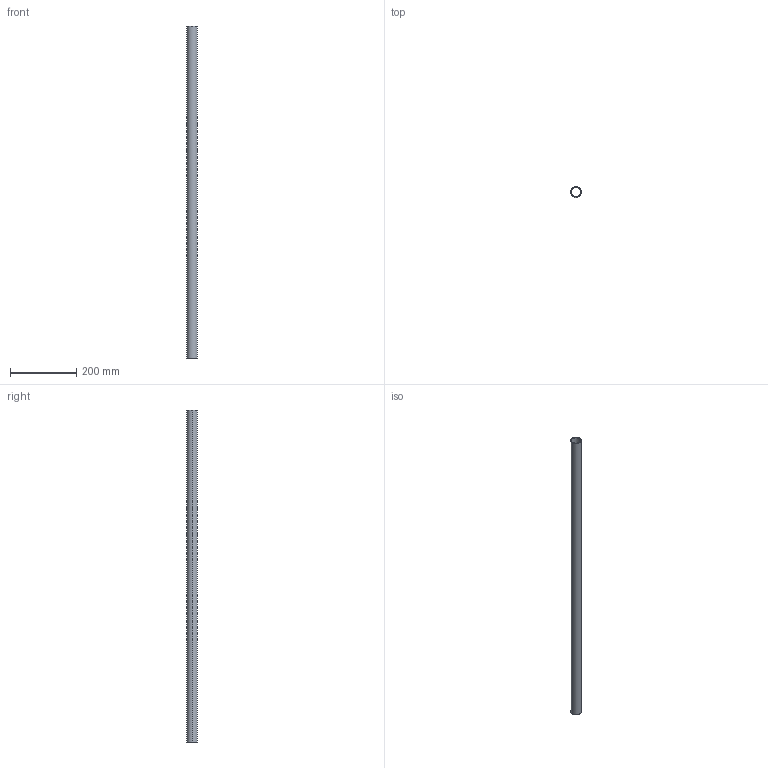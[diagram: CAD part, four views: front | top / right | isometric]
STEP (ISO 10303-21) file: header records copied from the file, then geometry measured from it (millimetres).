
FILE_DESCRIPTION (( 'STEP AP203' ), '1' );
FILE_NAME ('KP_32EL200.step', '2011-08-08T11:50:21', ( '' ), ( '' ), 'SwSTEP 2.0', 'SolidWorks 2011', '' );
FILE_SCHEMA (( 'CONFIG_CONTROL_DESIGN' ));
Length unit declared in the file: millimetre
Products named in the file (1): KP_32EL200
Bounding box: 32 x 32 x 1000 mm (x, y, z)
Volume: 188495.6 mm3; surface area: 188872.6 mm2
Topology: 1 solids, 1 shells, 6 faces, 12 edges, 8 vertices
Faces by surface type: cylinder 4, plane 2
Entity records: 245 total; most frequent: DIRECTION 34, CARTESIAN_POINT 27, ORIENTED_EDGE 24, AXIS2_PLACEMENT_3D 15, EDGE_CURVE 12, PERSON_AND_ORGANIZATION 8, EDGE_LOOP 8, VERTEX_POINT 8
